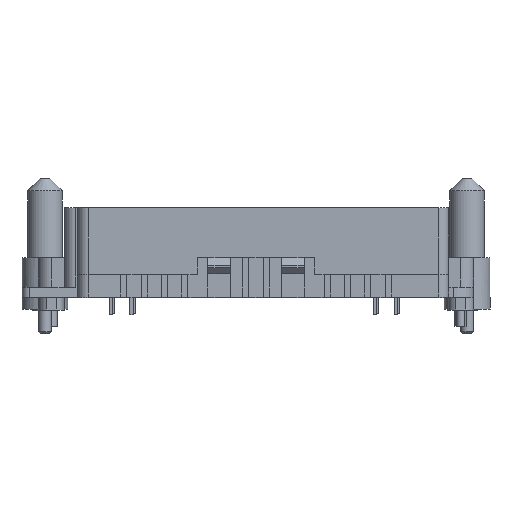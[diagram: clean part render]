
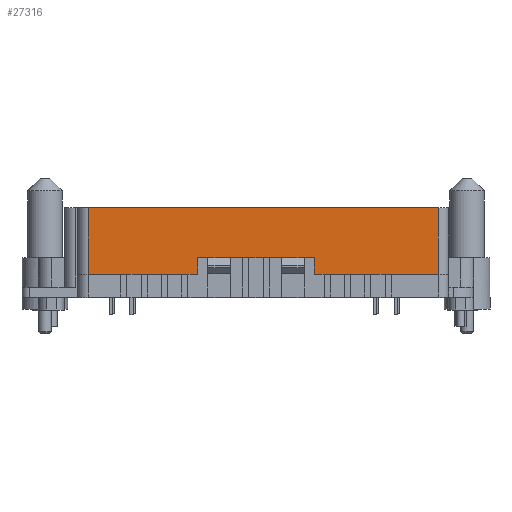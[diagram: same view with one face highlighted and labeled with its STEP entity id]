
A CAD part, top view. The second image highlights one B-rep face of the part: STEP entity #27316.
In plain terms, the highlighted planar face has unit normal (0, 0, 1).
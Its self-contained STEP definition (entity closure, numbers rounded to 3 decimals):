
#7823=DIRECTION('',(1.,0.,0.));
#7824=VECTOR('',#7823,34.475);
#7825=CARTESIAN_POINT('',(-16.522,6.85,10.65));
#7826=LINE('',#7825,#7824);
#7996=DIRECTION('',(-1.,0.,0.));
#7997=VECTOR('',#7996,10.772);
#7998=CARTESIAN_POINT('',(-5.75,0.3,10.65));
#7999=LINE('',#7998,#7997);
#8109=DIRECTION('',(-1.,0.,0.));
#8110=VECTOR('',#8109,12.203);
#8111=CARTESIAN_POINT('',(17.953,0.3,10.65));
#8112=LINE('',#8111,#8110);
#8617=DIRECTION('',(0.,-1.,0.));
#8618=VECTOR('',#8617,6.55);
#8619=CARTESIAN_POINT('',(-16.522,6.85,10.65));
#8620=LINE('',#8619,#8618);
#8621=DIRECTION('',(0.,1.,0.));
#8622=VECTOR('',#8621,6.55);
#8623=CARTESIAN_POINT('',(17.953,0.3,10.65));
#8624=LINE('',#8623,#8622);
#8625=DIRECTION('',(1.,0.,0.));
#8626=VECTOR('',#8625,2.25);
#8627=CARTESIAN_POINT('',(2.5,1.95,10.65));
#8628=LINE('',#8627,#8626);
#8629=DIRECTION('',(1.,0.,0.));
#8630=VECTOR('',#8629,2.25);
#8631=CARTESIAN_POINT('',(-4.75,1.95,10.65));
#8632=LINE('',#8631,#8630);
#8633=DIRECTION('',(0.,-1.,0.));
#8634=VECTOR('',#8633,1.65);
#8635=CARTESIAN_POINT('',(-5.75,1.95,10.65));
#8636=LINE('',#8635,#8634);
#8647=DIRECTION('',(0.,-1.,0.));
#8648=VECTOR('',#8647,1.65);
#8649=CARTESIAN_POINT('',(5.75,1.95,10.65));
#8650=LINE('',#8649,#8648);
#8659=DIRECTION('',(1.,0.,0.));
#8660=VECTOR('',#8659,1.);
#8661=CARTESIAN_POINT('',(-5.75,1.95,10.65));
#8662=LINE('',#8661,#8660);
#8675=DIRECTION('',(1.,0.,0.));
#8676=VECTOR('',#8675,1.);
#8677=CARTESIAN_POINT('',(4.75,1.95,10.65));
#8678=LINE('',#8677,#8676);
#8723=DIRECTION('',(1.,0.,0.));
#8724=VECTOR('',#8723,5.);
#8725=CARTESIAN_POINT('',(-2.5,1.95,10.65));
#8726=LINE('',#8725,#8724);
#11349=CARTESIAN_POINT('',(-5.75,0.3,10.65));
#11350=VERTEX_POINT('',#11349);
#11351=CARTESIAN_POINT('',(5.75,0.3,10.65));
#11352=VERTEX_POINT('',#11351);
#11357=CARTESIAN_POINT('',(-5.75,1.95,10.65));
#11358=VERTEX_POINT('',#11357);
#11359=CARTESIAN_POINT('',(5.75,1.95,10.65));
#11360=VERTEX_POINT('',#11359);
#11915=CARTESIAN_POINT('',(-2.5,1.95,10.65));
#11916=VERTEX_POINT('',#11915);
#11917=CARTESIAN_POINT('',(-4.75,1.95,10.65));
#11918=VERTEX_POINT('',#11917);
#11919=CARTESIAN_POINT('',(4.75,1.95,10.65));
#11920=VERTEX_POINT('',#11919);
#11921=CARTESIAN_POINT('',(2.5,1.95,10.65));
#11922=VERTEX_POINT('',#11921);
#12075=CARTESIAN_POINT('',(-16.522,6.85,10.65));
#12076=VERTEX_POINT('',#12075);
#12077=CARTESIAN_POINT('',(-16.522,0.3,10.65));
#12078=VERTEX_POINT('',#12077);
#12079=CARTESIAN_POINT('',(17.953,6.85,10.65));
#12081=VERTEX_POINT('',#12079);
#12085=CARTESIAN_POINT('',(17.953,0.3,10.65));
#12086=VERTEX_POINT('',#12085);
#27289=CARTESIAN_POINT('',(-17.523,-0.95,10.65));
#27290=DIRECTION('',(0.,0.,1.));
#27291=DIRECTION('',(1.,0.,0.));
#27292=AXIS2_PLACEMENT_3D('',#27289,#27290,#27291);
#27293=PLANE('',#27292);
#27295=ORIENTED_EDGE('',*,*,#27294,.F.);
#27296=ORIENTED_EDGE('',*,*,#26080,.T.);
#27298=ORIENTED_EDGE('',*,*,#27297,.F.);
#27299=ORIENTED_EDGE('',*,*,#26493,.T.);
#27301=ORIENTED_EDGE('',*,*,#27300,.F.);
#27303=ORIENTED_EDGE('',*,*,#27302,.F.);
#27305=ORIENTED_EDGE('',*,*,#27304,.F.);
#27307=ORIENTED_EDGE('',*,*,#27306,.F.);
#27309=ORIENTED_EDGE('',*,*,#27308,.F.);
#27311=ORIENTED_EDGE('',*,*,#27310,.F.);
#27312=ORIENTED_EDGE('',*,*,#27282,.T.);
#27313=ORIENTED_EDGE('',*,*,#26409,.T.);
#27314=EDGE_LOOP('',(#27295,#27296,#27298,#27299,#27301,#27303,#27305,#27307,
#27309,#27311,#27312,#27313));
#27315=FACE_OUTER_BOUND('',#27314,.F.);
#27316=ADVANCED_FACE('',(#27315),#27293,.T.);
#26080=EDGE_CURVE('',#12076,#12081,#7826,.T.);
#26409=EDGE_CURVE('',#11350,#12078,#7999,.T.);
#26493=EDGE_CURVE('',#12086,#11352,#8112,.T.);
#27282=EDGE_CURVE('',#11358,#11350,#8636,.T.);
#27294=EDGE_CURVE('',#12076,#12078,#8620,.T.);
#27297=EDGE_CURVE('',#12086,#12081,#8624,.T.);
#27300=EDGE_CURVE('',#11360,#11352,#8650,.T.);
#27302=EDGE_CURVE('',#11920,#11360,#8678,.T.);
#27304=EDGE_CURVE('',#11922,#11920,#8628,.T.);
#27306=EDGE_CURVE('',#11916,#11922,#8726,.T.);
#27308=EDGE_CURVE('',#11918,#11916,#8632,.T.);
#27310=EDGE_CURVE('',#11358,#11918,#8662,.T.);
